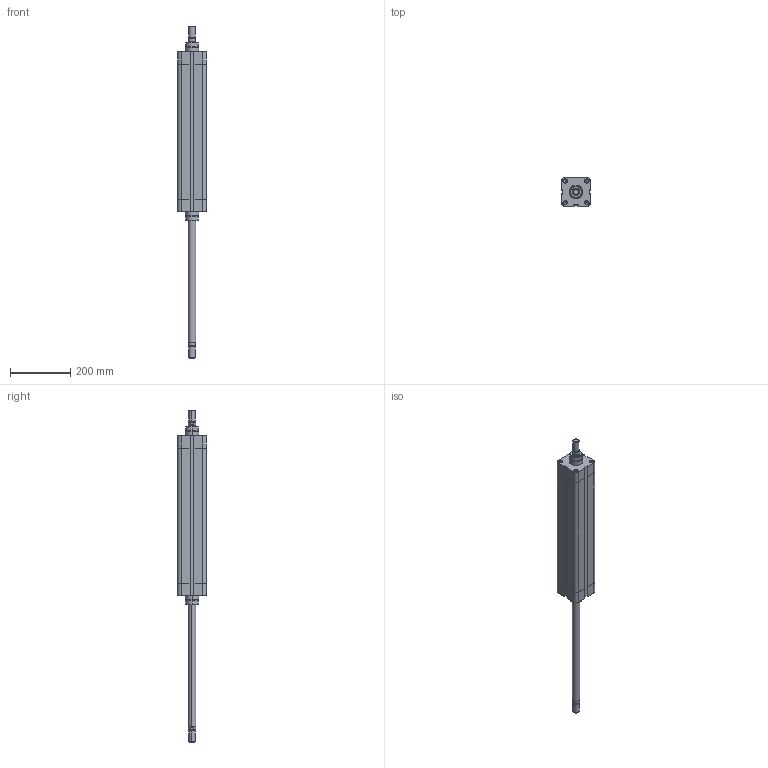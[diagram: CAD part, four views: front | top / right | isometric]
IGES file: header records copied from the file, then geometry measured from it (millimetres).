
Global section: file name: No Iges File Name specified; native system: AutoDesk Inventor R6.1; preprocessor: AutoDesk Inventor Iges Exporter R6.1; author: No Author specified; organization: No Organization specified; date: 20040107.171335; units: millimetre
Bounding box: 95.5 x 95.5 x 1100 mm (x, y, z)
Volume: 4936085.6 mm3; surface area: 385962.5 mm2
Topology: 2 solids, 2 shells, 236 faces, 564 edges, 356 vertices
Faces by surface type: plane 80, bspline 62, cylinder 42, revolution 32, cone 16, torus 4
